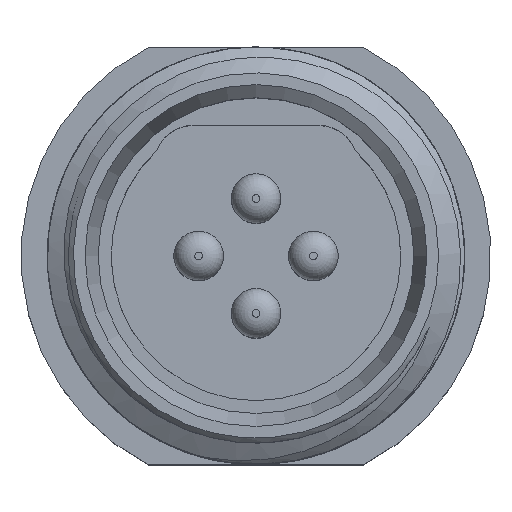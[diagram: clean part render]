
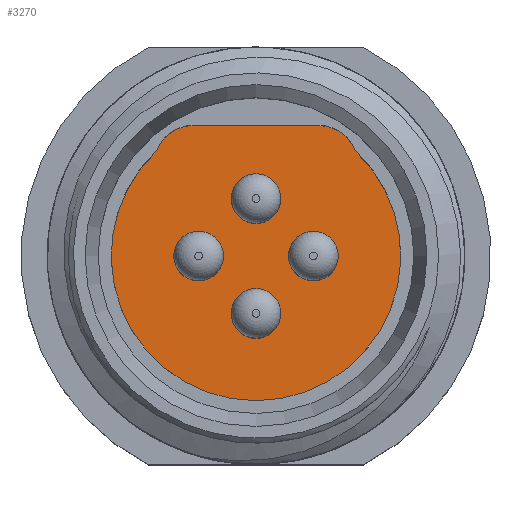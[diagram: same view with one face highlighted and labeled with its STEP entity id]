
A CAD part, top view. The second image highlights one B-rep face of the part: STEP entity #3270.
In plain terms, the highlighted planar face has unit normal (0, 0, 1).
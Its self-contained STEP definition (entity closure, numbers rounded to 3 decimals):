
#275 = ORIENTED_EDGE ( 'NONE', *, *, #972, .F. ) ;
#388 = CIRCLE ( 'NONE', #1115, 0.95 ) ;
#504 = CARTESIAN_POINT ( 'NONE',  ( 0., 0., 0. ) ) ;
#673 = ORIENTED_EDGE ( 'NONE', *, *, #5321, .F. ) ;
#709 = CARTESIAN_POINT ( 'NONE',  ( 1.25, 0., 0. ) ) ;
#761 = DIRECTION ( 'NONE',  ( 0., 0., 1. ) ) ;
#820 = DIRECTION ( 'NONE',  ( -1., 0., 0. ) ) ;
#850 = CIRCLE ( 'NONE', #3758, 5.804 ) ;
#869 = CARTESIAN_POINT ( 'NONE',  ( 0., 2.2, 0. ) ) ;
#882 = AXIS2_PLACEMENT_3D ( 'NONE', #869, #4366, #1756 ) ;
#933 = DIRECTION ( 'NONE',  ( -1., 0., 0. ) ) ;
#972 = EDGE_CURVE ( 'NONE', #5411, #5411, #4146, .T. ) ;
#1115 = AXIS2_PLACEMENT_3D ( 'NONE', #3980, #2602, #3506 ) ;
#1197 = CARTESIAN_POINT ( 'NONE',  ( 0., -2.2, 0. ) ) ;
#1203 = DIRECTION ( 'NONE',  ( -1., 0., 0. ) ) ;
#1212 = FACE_BOUND ( 'NONE', #4723, .T. ) ;
#1290 = VERTEX_POINT ( 'NONE', #3063 ) ;
#1478 = ORIENTED_EDGE ( 'NONE', *, *, #3997, .F. ) ;
#1689 = CARTESIAN_POINT ( 'NONE',  ( -5.804, 0., 0. ) ) ;
#1712 = EDGE_LOOP ( 'NONE', ( #673 ) ) ;
#1755 = DIRECTION ( 'NONE',  ( -1., 0., 0. ) ) ;
#1756 = DIRECTION ( 'NONE',  ( -1., 0., 0. ) ) ;
#1919 = EDGE_CURVE ( 'NONE', #4232, #4232, #2619, .T. ) ;
#1973 = CARTESIAN_POINT ( 'NONE',  ( -0.95, 2.2, 0. ) ) ;
#2083 = ORIENTED_EDGE ( 'NONE', *, *, #1919, .F. ) ;
#2158 = VERTEX_POINT ( 'NONE', #1689 ) ;
#2210 = CARTESIAN_POINT ( 'NONE',  ( -0.95, -2.2, 0. ) ) ;
#2258 = DIRECTION ( 'NONE',  ( 0., 0., -1. ) ) ;
#2602 = DIRECTION ( 'NONE',  ( 0., 0., 1. ) ) ;
#2615 = FACE_BOUND ( 'NONE', #2797, .T. ) ;
#2619 = CIRCLE ( 'NONE', #882, 0.95 ) ;
#2797 = EDGE_LOOP ( 'NONE', ( #5158 ) ) ;
#3063 = CARTESIAN_POINT ( 'NONE',  ( -3.15, 0., 0. ) ) ;
#3187 = CARTESIAN_POINT ( 'NONE',  ( 0., 5., 0. ) ) ;
#3217 = EDGE_LOOP ( 'NONE', ( #2083 ) ) ;
#3270 = ADVANCED_FACE ( 'NONE', ( #5091, #3375, #1212, #4912, #2615 ), #3463, .F. ) ;
#3336 = DIRECTION ( 'NONE',  ( 0., 0., 1. ) ) ;
#3375 = FACE_BOUND ( 'NONE', #3217, .T. ) ;
#3463 = PLANE ( 'NONE',  #3748 ) ;
#3506 = DIRECTION ( 'NONE',  ( -1., 0., 0. ) ) ;
#3748 = AXIS2_PLACEMENT_3D ( 'NONE', #3187, #4365, #1755 ) ;
#3758 = AXIS2_PLACEMENT_3D ( 'NONE', #504, #2258, #820 ) ;
#3846 = CARTESIAN_POINT ( 'NONE',  ( 2.2, 0., 0. ) ) ;
#3909 = VERTEX_POINT ( 'NONE', #2210 ) ;
#3980 = CARTESIAN_POINT ( 'NONE',  ( -2.2, 0., 0. ) ) ;
#3997 = EDGE_CURVE ( 'NONE', #3909, #3909, #4677, .T. ) ;
#4146 = CIRCLE ( 'NONE', #4247, 0.95 ) ;
#4232 = VERTEX_POINT ( 'NONE', #1973 ) ;
#4247 = AXIS2_PLACEMENT_3D ( 'NONE', #3846, #3336, #1203 ) ;
#4365 = DIRECTION ( 'NONE',  ( 0., 0., -1. ) ) ;
#4366 = DIRECTION ( 'NONE',  ( 0., 0., 1. ) ) ;
#4585 = AXIS2_PLACEMENT_3D ( 'NONE', #1197, #761, #933 ) ;
#4677 = CIRCLE ( 'NONE', #4585, 0.95 ) ;
#4723 = EDGE_LOOP ( 'NONE', ( #275 ) ) ;
#4912 = FACE_BOUND ( 'NONE', #5004, .T. ) ;
#5004 = EDGE_LOOP ( 'NONE', ( #1478 ) ) ;
#5024 = EDGE_CURVE ( 'NONE', #1290, #1290, #388, .T. ) ;
#5091 = FACE_OUTER_BOUND ( 'NONE', #1712, .T. ) ;
#5158 = ORIENTED_EDGE ( 'NONE', *, *, #5024, .F. ) ;
#5321 = EDGE_CURVE ( 'NONE', #2158, #2158, #850, .T. ) ;
#5411 = VERTEX_POINT ( 'NONE', #709 ) ;
